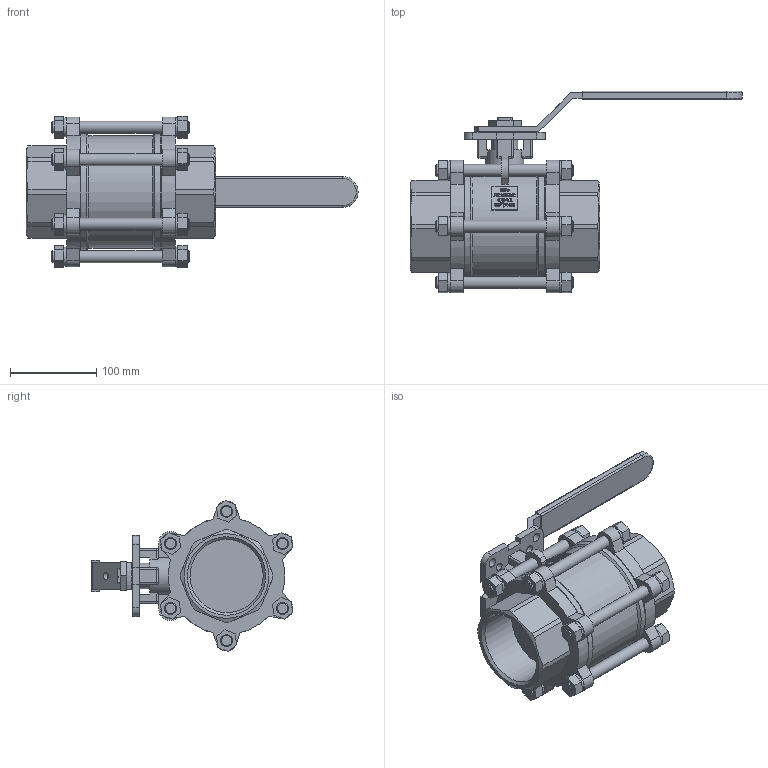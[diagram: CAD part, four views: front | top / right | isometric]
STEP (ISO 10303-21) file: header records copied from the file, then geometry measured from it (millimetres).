
FILE_DESCRIPTION((''),'2;1');
FILE_NAME('K:\Inventor\1 Artikel\11) Muffen-Kugelhähne\11a) manuell\Econosto\470-VA, 7444ISO\470-VA, G3\470-VA, G3, 3D\470-VA, G3, PN50, HH, 3D.stp','2019-10-24T09:41:11',('claudia'),(''),'Autodesk Inventor 2013','Autodesk Inventor 2013','');
FILE_SCHEMA(('AUTOMOTIVE_DESIGN { 1 0 10303 214 1 1 1 1 }'));
Length unit declared in the file: millimetre
Products named in the file (1): Bauteil9
Bounding box: 385 x 234.03 x 175.16 mm (x, y, z)
Volume: 2449622.3 mm3; surface area: 247910.9 mm2
Topology: 1 solids, 1 shells, 1514 faces, 4043 edges, 2650 vertices
Faces by surface type: plane 940, bspline 441, cylinder 103, cone 20, sphere 8, torus 2
Full cylindrical faces by diameter (mm): 8 x2, 9 x4, 11 x4, 14 x20, 22 x12, 30 x1, 48 x1, 84.927 x2, 130 x1, 135 x4
Entity records: 50307 total; most frequent: CARTESIAN_POINT 15340, ORIENTED_EDGE 7880, DIRECTION 5485, EDGE_CURVE 3940, VECTOR 2695, LINE 2695, VERTEX_POINT 2627, EDGE_LOOP 1757
